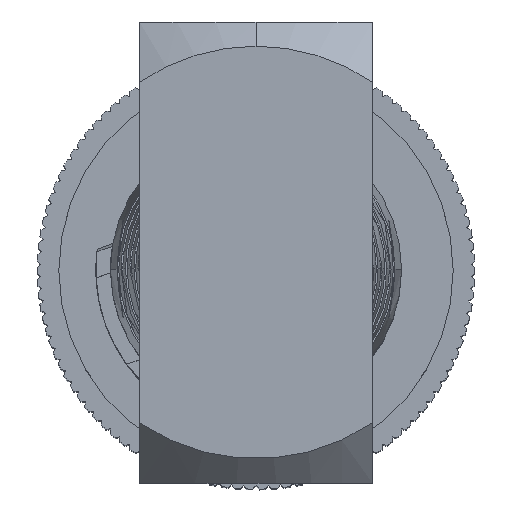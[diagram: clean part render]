
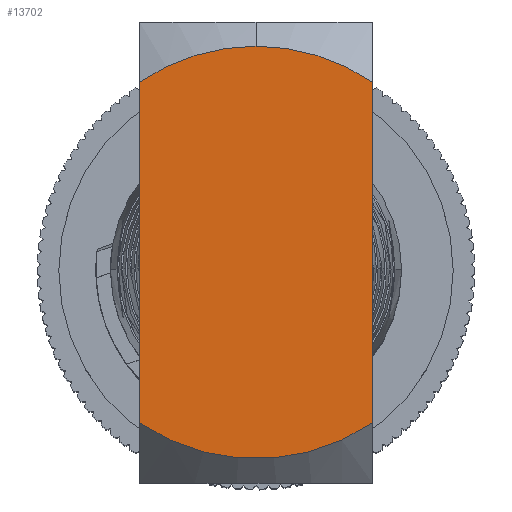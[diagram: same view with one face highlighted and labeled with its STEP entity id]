
A CAD part, top view. The second image highlights one B-rep face of the part: STEP entity #13702.
In plain terms, the highlighted planar face has unit normal (0, 0, 1).
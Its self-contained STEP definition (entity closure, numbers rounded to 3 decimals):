
#834 = CIRCLE ( 'NONE', #5029, 4.25 ) ;
#2255 = PLANE ( 'NONE',  #25071 ) ;
#4506 = DIRECTION ( 'NONE',  ( 0., 0., 1. ) ) ;
#4723 = CARTESIAN_POINT ( 'NONE',  ( -2.4, -3.507, 225.179 ) ) ;
#5029 = AXIS2_PLACEMENT_3D ( 'NONE', #18497, #4506, #20831 ) ;
#5265 = CARTESIAN_POINT ( 'NONE',  ( 2.4, -3.507, 225.179 ) ) ;
#5851 = DIRECTION ( 'NONE',  ( 0., 0., 1. ) ) ;
#6509 = VERTEX_POINT ( 'NONE', #13615 ) ;
#6799 = EDGE_CURVE ( 'NONE', #13201, #9649, #13072, .T. ) ;
#8816 = ORIENTED_EDGE ( 'NONE', *, *, #13037, .F. ) ;
#9451 = VECTOR ( 'NONE', #18442, 1000. ) ;
#9649 = VERTEX_POINT ( 'NONE', #5265 ) ;
#9988 = VERTEX_POINT ( 'NONE', #30111 ) ;
#10084 = DIRECTION ( 'NONE',  ( 0., 0., 1. ) ) ;
#10089 = ORIENTED_EDGE ( 'NONE', *, *, #28651, .T. ) ;
#11632 = CARTESIAN_POINT ( 'NONE',  ( 0., 0., 225.179 ) ) ;
#11882 = AXIS2_PLACEMENT_3D ( 'NONE', #24086, #10084, #26403 ) ;
#12081 = VECTOR ( 'NONE', #18318, 1000. ) ;
#12819 = ORIENTED_EDGE ( 'NONE', *, *, #15081, .T. ) ;
#13037 = EDGE_CURVE ( 'NONE', #13201, #6509, #21888, .T. ) ;
#13072 = CIRCLE ( 'NONE', #11882, 4.25 ) ;
#13201 = VERTEX_POINT ( 'NONE', #4723 ) ;
#13615 = CARTESIAN_POINT ( 'NONE',  ( -2.4, 3.507, 225.179 ) ) ;
#13702 = ADVANCED_FACE ( 'NONE', ( #14526 ), #2255, .F. ) ;
#14029 = DIRECTION ( 'NONE',  ( 0., 1., 0. ) ) ;
#14526 = FACE_OUTER_BOUND ( 'NONE', #14789, .T. ) ;
#14789 = EDGE_LOOP ( 'NONE', ( #19729, #21856, #10089, #12819, #8816 ) ) ;
#15081 = EDGE_CURVE ( 'NONE', #9988, #6509, #15485, .T. ) ;
#15485 = CIRCLE ( 'NONE', #23928, 4.25 ) ;
#15841 = CARTESIAN_POINT ( 'NONE',  ( 2.4, 3.507, 225.179 ) ) ;
#16016 = CARTESIAN_POINT ( 'NONE',  ( 2.4, 4.75, 225.179 ) ) ;
#18318 = DIRECTION ( 'NONE',  ( 0., -1., 0. ) ) ;
#18442 = DIRECTION ( 'NONE',  ( 0., 1., 0. ) ) ;
#18497 = CARTESIAN_POINT ( 'NONE',  ( 0., 0., 225.179 ) ) ;
#19018 = LINE ( 'NONE', #16016, #12081 ) ;
#19729 = ORIENTED_EDGE ( 'NONE', *, *, #6799, .T. ) ;
#19874 = CARTESIAN_POINT ( 'NONE',  ( 0., 0., 225.179 ) ) ;
#20831 = DIRECTION ( 'NONE',  ( 0., -1., 0. ) ) ;
#21856 = ORIENTED_EDGE ( 'NONE', *, *, #24840, .F. ) ;
#21888 = LINE ( 'NONE', #29913, #9451 ) ;
#22223 = DIRECTION ( 'NONE',  ( 0., -1., 0. ) ) ;
#23928 = AXIS2_PLACEMENT_3D ( 'NONE', #19874, #5851, #22223 ) ;
#24086 = CARTESIAN_POINT ( 'NONE',  ( 0., 0., 225.179 ) ) ;
#24840 = EDGE_CURVE ( 'NONE', #27534, #9649, #19018, .T. ) ;
#25071 = AXIS2_PLACEMENT_3D ( 'NONE', #11632, #27958, #14029 ) ;
#26403 = DIRECTION ( 'NONE',  ( 0., -1., 0. ) ) ;
#27534 = VERTEX_POINT ( 'NONE', #15841 ) ;
#27958 = DIRECTION ( 'NONE',  ( 0., 0., -1. ) ) ;
#28651 = EDGE_CURVE ( 'NONE', #27534, #9988, #834, .T. ) ;
#29913 = CARTESIAN_POINT ( 'NONE',  ( -2.4, 4.75, 225.179 ) ) ;
#30111 = CARTESIAN_POINT ( 'NONE',  ( 0., 4.25, 225.179 ) ) ;
